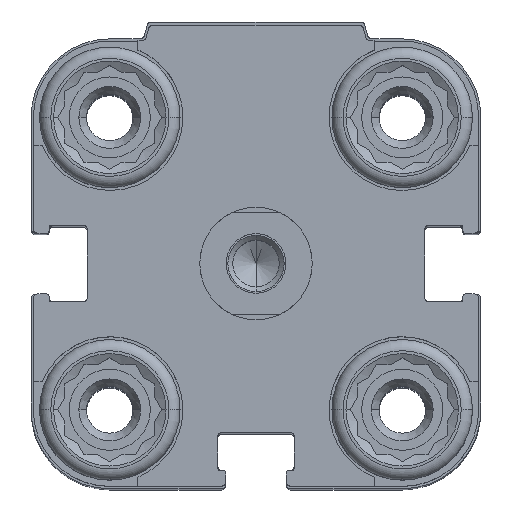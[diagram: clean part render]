
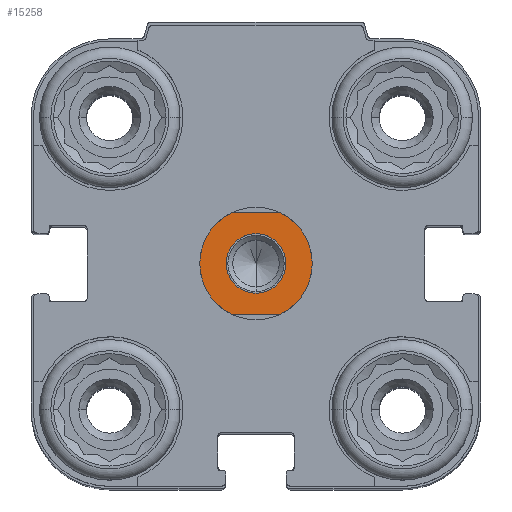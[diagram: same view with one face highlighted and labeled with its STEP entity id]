
A CAD part, top view. The second image highlights one B-rep face of the part: STEP entity #15258.
In plain terms, the highlighted planar face has unit normal (0, 0, 1).
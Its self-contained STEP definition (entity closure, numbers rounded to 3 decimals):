
#57 = CARTESIAN_POINT ( 'NONE',  ( 0., 0., 5.5 ) ) ;
#178 = CARTESIAN_POINT ( 'NONE',  ( -2.179, -4.5, 5.5 ) ) ;
#1349 = DIRECTION ( 'NONE',  ( 0., 1., 0. ) ) ;
#1436 = EDGE_CURVE ( 'NONE', #16205, #15565, #2533, .T. ) ;
#1609 = AXIS2_PLACEMENT_3D ( 'NONE', #2354, #9689, #16559 ) ;
#1639 = AXIS2_PLACEMENT_3D ( 'NONE', #57, #15924, #5875 ) ;
#1816 = EDGE_CURVE ( 'NONE', #13594, #4316, #6718, .T. ) ;
#1891 = CARTESIAN_POINT ( 'NONE',  ( 0., 2.65, 5.5 ) ) ;
#1916 = CIRCLE ( 'NONE', #1609, 5. ) ;
#2085 = EDGE_CURVE ( 'NONE', #6434, #3247, #1916, .T. ) ;
#2133 = DIRECTION ( 'NONE',  ( 0., 0., -1. ) ) ;
#2223 = DIRECTION ( 'NONE',  ( 0., 1., 0. ) ) ;
#2272 = CARTESIAN_POINT ( 'NONE',  ( -2.179, 4.5, 5.5 ) ) ;
#2354 = CARTESIAN_POINT ( 'NONE',  ( 0., 0., 5.5 ) ) ;
#2533 = CIRCLE ( 'NONE', #1639, 5. ) ;
#2688 = DIRECTION ( 'NONE',  ( -1., 0., 0. ) ) ;
#2912 = PLANE ( 'NONE',  #13968 ) ;
#3025 = ORIENTED_EDGE ( 'NONE', *, *, #16486, .F. ) ;
#3247 = VERTEX_POINT ( 'NONE', #2272 ) ;
#3294 = ORIENTED_EDGE ( 'NONE', *, *, #9435, .F. ) ;
#4127 = CARTESIAN_POINT ( 'NONE',  ( 5., 0., 5.5 ) ) ;
#4205 = LINE ( 'NONE', #9941, #10544 ) ;
#4316 = VERTEX_POINT ( 'NONE', #1891 ) ;
#4329 = DIRECTION ( 'NONE',  ( 0., 0., -1. ) ) ;
#4414 = EDGE_LOOP ( 'NONE', ( #3294, #17491, #6451, #6949, #3025, #10601 ) ) ;
#4471 = CARTESIAN_POINT ( 'NONE',  ( 2.179, 4.5, 5.5 ) ) ;
#5055 = CARTESIAN_POINT ( 'NONE',  ( 0., 0., 5.5 ) ) ;
#5334 = DIRECTION ( 'NONE',  ( 0., 0., -1. ) ) ;
#5737 = FACE_OUTER_BOUND ( 'NONE', #4414, .T. ) ;
#5875 = DIRECTION ( 'NONE',  ( -1., 0., 0. ) ) ;
#6434 = VERTEX_POINT ( 'NONE', #16860 ) ;
#6451 = ORIENTED_EDGE ( 'NONE', *, *, #10852, .F. ) ;
#6635 = DIRECTION ( 'NONE',  ( -1., 0., 0. ) ) ;
#6718 = CIRCLE ( 'NONE', #11827, 2.65 ) ;
#6754 = CARTESIAN_POINT ( 'NONE',  ( 0., -2.65, 5.5 ) ) ;
#6806 = CARTESIAN_POINT ( 'NONE',  ( 0., 0., 5.5 ) ) ;
#6949 = ORIENTED_EDGE ( 'NONE', *, *, #17197, .F. ) ;
#7016 = CIRCLE ( 'NONE', #17813, 5. ) ;
#7434 = ORIENTED_EDGE ( 'NONE', *, *, #1816, .T. ) ;
#7995 = EDGE_LOOP ( 'NONE', ( #16653, #7434 ) ) ;
#8619 = LINE ( 'NONE', #11345, #14849 ) ;
#8743 = DIRECTION ( 'NONE',  ( 0., 1., 0. ) ) ;
#9435 = EDGE_CURVE ( 'NONE', #3247, #16205, #4205, .T. ) ;
#9532 = VERTEX_POINT ( 'NONE', #178 ) ;
#9689 = DIRECTION ( 'NONE',  ( 0., 0., -1. ) ) ;
#9941 = CARTESIAN_POINT ( 'NONE',  ( -9., 4.5, 5.5 ) ) ;
#10300 = AXIS2_PLACEMENT_3D ( 'NONE', #5055, #5334, #2223 ) ;
#10544 = VECTOR ( 'NONE', #15678, 1000. ) ;
#10570 = VERTEX_POINT ( 'NONE', #11011 ) ;
#10601 = ORIENTED_EDGE ( 'NONE', *, *, #1436, .F. ) ;
#10852 = EDGE_CURVE ( 'NONE', #9532, #6434, #14175, .T. ) ;
#11011 = CARTESIAN_POINT ( 'NONE',  ( 2.179, -4.5, 5.5 ) ) ;
#11126 = DIRECTION ( 'NONE',  ( 0., 0., -1. ) ) ;
#11152 = AXIS2_PLACEMENT_3D ( 'NONE', #12005, #2133, #6635 ) ;
#11345 = CARTESIAN_POINT ( 'NONE',  ( 9., -4.5, 5.5 ) ) ;
#11676 = CARTESIAN_POINT ( 'NONE',  ( 0., 0., 5.5 ) ) ;
#11827 = AXIS2_PLACEMENT_3D ( 'NONE', #11676, #17126, #1349 ) ;
#12005 = CARTESIAN_POINT ( 'NONE',  ( 0., 0., 5.5 ) ) ;
#13594 = VERTEX_POINT ( 'NONE', #6754 ) ;
#13949 = EDGE_CURVE ( 'NONE', #4316, #13594, #16302, .T. ) ;
#13968 = AXIS2_PLACEMENT_3D ( 'NONE', #15976, #4329, #8743 ) ;
#14175 = CIRCLE ( 'NONE', #11152, 5. ) ;
#14849 = VECTOR ( 'NONE', #2688, 1000. ) ;
#15258 = ADVANCED_FACE ( 'NONE', ( #5737, #15620 ), #2912, .F. ) ;
#15565 = VERTEX_POINT ( 'NONE', #4127 ) ;
#15620 = FACE_BOUND ( 'NONE', #7995, .T. ) ;
#15678 = DIRECTION ( 'NONE',  ( 1., 0., 0. ) ) ;
#15924 = DIRECTION ( 'NONE',  ( 0., 0., -1. ) ) ;
#15976 = CARTESIAN_POINT ( 'NONE',  ( 0., 0., 5.5 ) ) ;
#16205 = VERTEX_POINT ( 'NONE', #4471 ) ;
#16302 = CIRCLE ( 'NONE', #10300, 2.65 ) ;
#16486 = EDGE_CURVE ( 'NONE', #15565, #10570, #7016, .T. ) ;
#16559 = DIRECTION ( 'NONE',  ( -1., 0., 0. ) ) ;
#16653 = ORIENTED_EDGE ( 'NONE', *, *, #13949, .T. ) ;
#16860 = CARTESIAN_POINT ( 'NONE',  ( -5., 0., 5.5 ) ) ;
#16864 = DIRECTION ( 'NONE',  ( -1., 0., 0. ) ) ;
#17126 = DIRECTION ( 'NONE',  ( 0., 0., -1. ) ) ;
#17197 = EDGE_CURVE ( 'NONE', #10570, #9532, #8619, .T. ) ;
#17491 = ORIENTED_EDGE ( 'NONE', *, *, #2085, .F. ) ;
#17813 = AXIS2_PLACEMENT_3D ( 'NONE', #6806, #11126, #16864 ) ;
